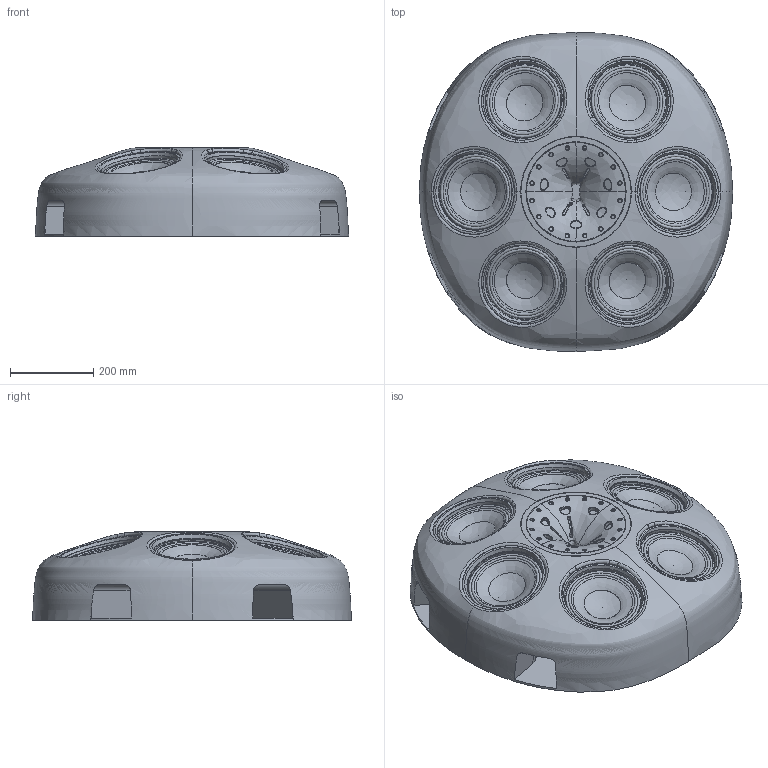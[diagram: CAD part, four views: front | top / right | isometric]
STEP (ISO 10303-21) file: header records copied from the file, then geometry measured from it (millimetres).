
FILE_DESCRIPTION(/* description */ (''),/* implementation_level */ '2;1');
FILE_NAME(/* name */ '3D Drawing HALO_Public.step',/* time_stamp */ '2025-06-21T08:55:18+02:00',/* author */ (''),/* organization */ (''),/* preprocessor_version */ 'ST-DEVELOPER v20.1',/* originating_system */ 'Autodesk Translation Framework v14.10.0.0',/* authorisation */ '');
FILE_SCHEMA (('AUTOMOTIVE_DESIGN { 1 0 10303 214 3 1 1 }'));
Products named in the file (1): 3D Drawing HALO_Public v2
Bounding box: 750.39 x 764.4 x 211.72 mm (x, y, z)
Volume: 65644086.9 mm3; surface area: 1969254.1 mm2
Topology: 1 solids, 16 shells, 3968 faces, 10327 edges, 6600 vertices
Faces by surface type: plane 2089, bspline 850, cone 512, cylinder 341, torus 166, sphere 10
Full cylindrical faces by diameter (mm): 3.85 x4, 4.05 x4, 6.05 x4, 7 x1, 8.72 x4, 32.3 x1, 183 x2, 186.071 x2, 239.675 x1
Entity records: 246878 total; most frequent: CARTESIAN_POINT 153823, ORIENTED_EDGE 20638, DIRECTION 18038, EDGE_CURVE 10319, AXIS2_PLACEMENT_3D 6773, VERTEX_POINT 6600, LINE 4492, VECTOR 4492
